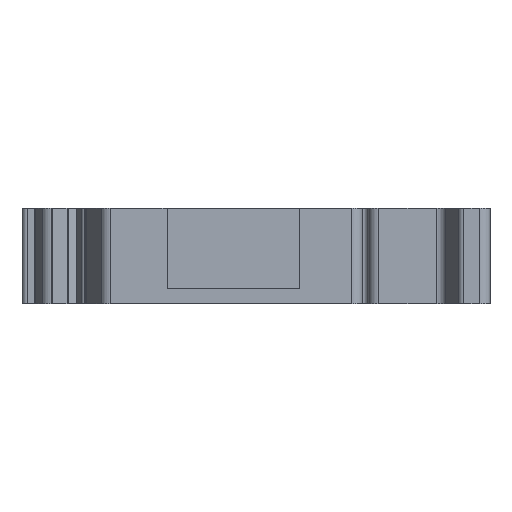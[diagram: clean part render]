
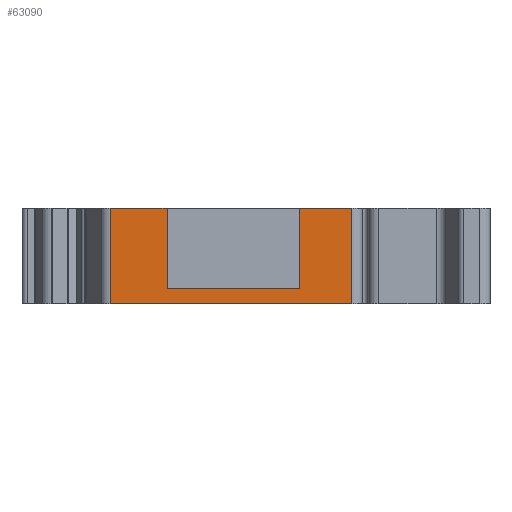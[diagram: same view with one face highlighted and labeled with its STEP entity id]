
A CAD part, left-side view. The second image highlights one B-rep face of the part: STEP entity #63090.
In plain terms, the highlighted planar face has unit normal (-1, 0, 0).
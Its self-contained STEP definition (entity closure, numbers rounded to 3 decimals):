
#5400=CARTESIAN_POINT('',(-36.25,108.252,-8.975));
#5410=VERTEX_POINT('',#5400);
#5440=CARTESIAN_POINT('',(-36.25,108.252,0.));
#5450=DIRECTION('',(0.,0.,1.));
#5460=VECTOR('',#5450,1.);
#5470=LINE('',#5440,#5460);
#5480=CARTESIAN_POINT('',(-36.25,108.252,0.));
#5490=VERTEX_POINT('',#5480);
#5500=EDGE_CURVE('',#5410,#5490,#5470,.T.);
#41850=CARTESIAN_POINT('',(-36.25,113.2,0.));
#41860=VERTEX_POINT('',#41850);
#42030=CARTESIAN_POINT('',(-36.25,125.7,0.));
#42040=VERTEX_POINT('',#42030);
#42070=CARTESIAN_POINT('',(-36.25,0.,0.));
#42080=DIRECTION('',(-0.,-1.,0.));
#42090=VECTOR('',#42080,1.);
#42100=LINE('',#42070,#42090);
#42110=CARTESIAN_POINT('',(-36.25,131.055,0.));
#42120=VERTEX_POINT('',#42110);
#42130=EDGE_CURVE('',#42120,#42040,#42100,.T.);
#46700=EDGE_CURVE('',#41860,#5490,#42100,.T.);
#51650=CARTESIAN_POINT('',(-36.25,131.055,-8.975));
#51660=VERTEX_POINT('',#51650);
#51690=CARTESIAN_POINT('',(-36.25,0.,-8.975));
#51700=DIRECTION('',(-0.,-1.,0.));
#51710=VECTOR('',#51700,1.);
#51720=LINE('',#51690,#51710);
#51730=EDGE_CURVE('',#51660,#5410,#51720,.T.);
#55970=CARTESIAN_POINT('',(-36.25,131.055,-7.975));
#55980=DIRECTION('',(0.,0.,1.));
#55990=VECTOR('',#55980,1.);
#56000=LINE('',#55970,#55990);
#56010=EDGE_CURVE('',#51660,#42120,#56000,.T.);
#59440=CARTESIAN_POINT('',(-36.25,113.2,-7.575));
#59450=VERTEX_POINT('',#59440);
#59480=CARTESIAN_POINT('',(-36.25,0.,-7.575));
#59490=DIRECTION('',(0.,1.,-0.));
#59500=VECTOR('',#59490,1.);
#59510=LINE('',#59480,#59500);
#59520=CARTESIAN_POINT('',(-36.25,125.7,-7.575));
#59530=VERTEX_POINT('',#59520);
#59540=EDGE_CURVE('',#59450,#59530,#59510,.T.);
#59770=CARTESIAN_POINT('',(-36.25,125.7,0.));
#59780=DIRECTION('',(0.,0.,-1.));
#59790=VECTOR('',#59780,1.);
#59800=LINE('',#59770,#59790);
#59810=EDGE_CURVE('',#42040,#59530,#59800,.T.);
#60090=CARTESIAN_POINT('',(-36.25,113.2,0.));
#60100=DIRECTION('',(0.,0.,1.));
#60110=VECTOR('',#60100,1.);
#60120=LINE('',#60090,#60110);
#60130=EDGE_CURVE('',#59450,#41860,#60120,.T.);
#62940=CARTESIAN_POINT('',(-36.25,113.2,-7.875));
#62950=DIRECTION('',(-1.,-0.,0.));
#62960=DIRECTION('',(-0.,1.,0.));
#62970=AXIS2_PLACEMENT_3D('',#62940,#62950,#62960);
#62980=PLANE('',#62970);
#62990=ORIENTED_EDGE('',*,*,#5500,.T.);
#63000=ORIENTED_EDGE('',*,*,#51730,.T.);
#63010=ORIENTED_EDGE('',*,*,#56010,.F.);
#63020=ORIENTED_EDGE('',*,*,#42130,.F.);
#63030=ORIENTED_EDGE('',*,*,#59810,.F.);
#63040=ORIENTED_EDGE('',*,*,#59540,.T.);
#63050=ORIENTED_EDGE('',*,*,#60130,.F.);
#63060=ORIENTED_EDGE('',*,*,#46700,.F.);
#63070=EDGE_LOOP('',(#63060,#63050,#63040,#63030,#63020,#63010,#63000,
#62990));
#63080=FACE_OUTER_BOUND('',#63070,.T.);
#63090=ADVANCED_FACE('',(#63080),#62980,.T.);
